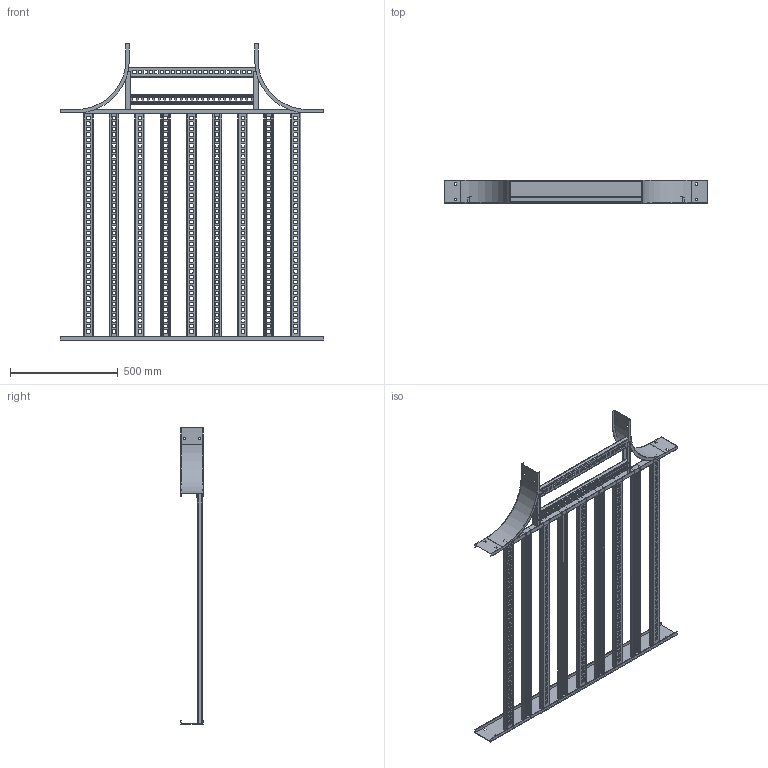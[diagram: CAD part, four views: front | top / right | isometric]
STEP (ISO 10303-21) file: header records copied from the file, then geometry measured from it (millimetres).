
FILE_DESCRIPTION((''),'2;1');
FILE_NAME('AUF44224VRT12_ASM','2010-02-15T',('erouzier'),(''),'PRO/ENGINEER BY PARAMETRIC TECHNOLOGY CORPORATION, 2008510','PRO/ENGINEER BY PARAMETRIC TECHNOLOGY CORPORATION, 2008510','');
FILE_SCHEMA(('CONFIG_CONTROL_DESIGN'));
Length unit declared in the file: inch
Products named in the file (17): CDS001319-4-90-9-I; CDS013841-4-48; CDS000495_GEN_AF9; CDS002159L42-P_AF8; CDS002159L42-P_AF9; CDS002159L42-P_AF10; CDS002159L42-P_AF11; CDS002159L42-P_AF12; CDS002159L42-P_AF13; CDS002159L42-P_AF14; CDS002159L42-P; CDS002159L42-P_AF15; CDS000495_GEN_AF10; CDS000495_GEN_AF11; CDS002159L24-P_AF6; CDS002159L24-P_AF7; AUF44224VRT12_ASM
Assembly tree (17 placements, depth 2):
  AUF44224VRT12_ASM
    CDS001319-4-90-9-I  x2
    CDS013841-4-48
    CDS000495_GEN_AF9
    CDS002159L42-P_AF8
    CDS002159L42-P_AF9
    CDS002159L42-P_AF10
    CDS002159L42-P_AF11
    CDS002159L42-P_AF12
    CDS002159L42-P_AF13
    CDS002159L42-P_AF14
    CDS002159L42-P
    CDS002159L42-P_AF15
    CDS000495_GEN_AF10
    CDS000495_GEN_AF11
    CDS002159L24-P_AF6
    CDS002159L24-P_AF7
Bounding box: 1223.77 x 106.05 x 1376.17 mm (x, y, z)
Volume: 2296582.7 mm3; surface area: 3180992.6 mm2
Topology: 17 solids, 17 shells, 3686 faces, 10956 edges, 7304 vertices
Faces by surface type: plane 1941, cylinder 1745
Entity records: 125331 total; most frequent: CARTESIAN_POINT 21786, ORIENTED_EDGE 21720, DIRECTION 21714, EDGE_CURVE 10860, VECTOR 7378, LINE 7378, VERTEX_POINT 7240, AXIS2_PLACEMENT_3D 7168
